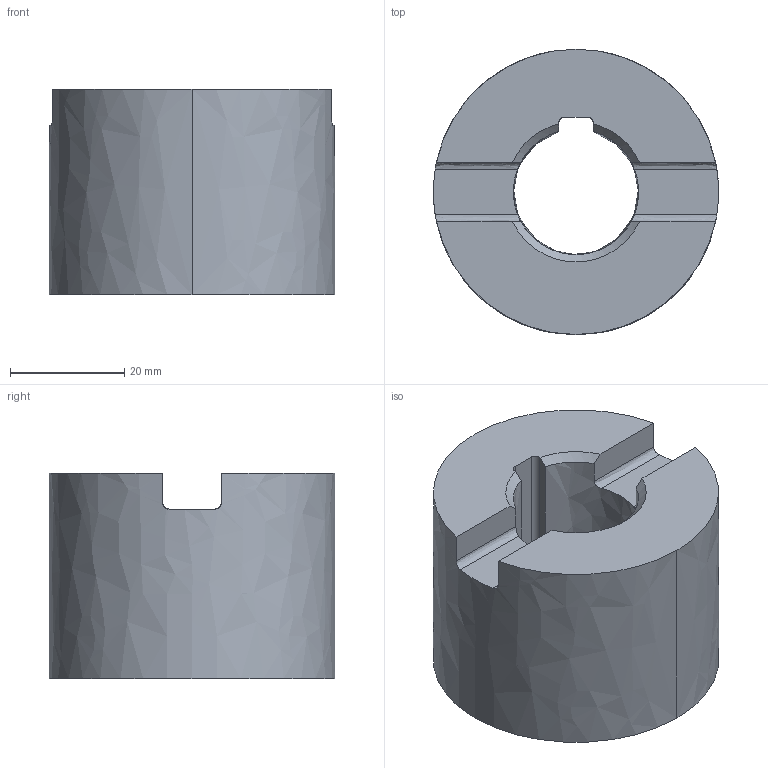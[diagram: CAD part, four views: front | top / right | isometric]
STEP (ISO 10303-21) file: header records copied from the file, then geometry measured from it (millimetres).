
FILE_DESCRIPTION((''),'2;1');
FILE_NAME('DIN4003_82_HEURO','2016-12-15T',('automc'),(''),'PRO/ENGINEER BY PARAMETRIC TECHNOLOGY CORPORATION, 2015280','PRO/ENGINEER BY PARAMETRIC TECHNOLOGY CORPORATION, 2015280','');
FILE_SCHEMA(('AUTOMOTIVE_DESIGN { 1 0 10303 214 1 1 1 1 }'));
Length unit declared in the file: millimetre
Products named in the file (1): DIN4003_82_HEURO
Bounding box: 50 x 50 x 36 mm (x, y, z)
Volume: 48766.3 mm3; surface area: 11512.5 mm2
Topology: 1 solids, 1 shells, 30 faces, 84 edges, 57 vertices
Faces by surface type: bspline 30
Entity records: 1823 total; most frequent: CARTESIAN_POINT 776, ORIENTED_EDGE 164, DIRECTION 123, EDGE_CURVE 82, VERTEX_POINT 54, VECTOR 43, LINE 43, AXIS2_PLACEMENT_3D 40
